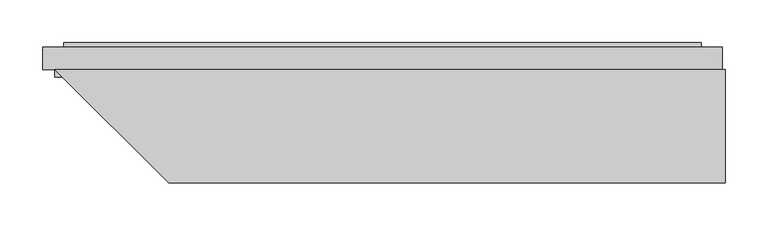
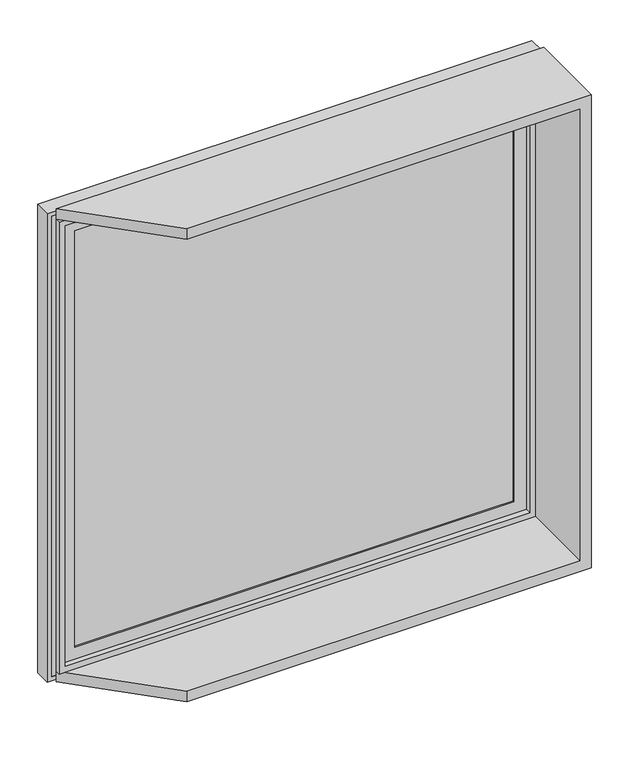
"""IFC4 building model written with IfcOpenShell, lengths in millimetres: plate geometry, SCISSOR PANEL : SCISSOR PANEL."""

from ifc_helpers import new_model, si_unit, frame, origin, place, context, project, spatial, polyline, outline, extrude, faceted_brep, source, transform, mapped, element, save


def plate_d79f475a(model_context):
    return source(origin(), model_context, "Body", "SolidModel", [
        faceted_brep([(398.9048282, 132.5, 800.0), (398.9048282, 132.5, 0.0), (-381.4048282, 132.5, 0.0), (-381.4048282, 132.5, 17.5), (381.4048282, 132.5, 17.5), (381.4048282, 132.5, 782.5), (-381.4048282, 132.5, 782.5), (-381.4048282, 132.5, 800.0), (381.4048282, 0.0, 17.5), (381.4048282, 0.0, 782.5), (-248.9048282, 0.0, 0.0), (-248.9048282, 0.0, 17.5), (-248.9048282, 0.0, 782.5), (-248.9048282, 0.0, 800.0), (398.9048282, 0.0, 0.0), (398.9048282, 0.0, 800.0)], [[[0, 1, 2, 3, 4, 5, 6, 7]], [[8, 9, 5, 4]], [[10, 11, 3, 2]], [[12, 13, 7, 6]], [[14, 15, 13, 12, 9, 8, 11, 10]], [[1, 14, 10, 2]], [[15, 14, 1, 0]], [[15, 0, 7, 13]], [[6, 5, 9, 12]], [[4, 3, 11, 8]]]),
        extrude(outline(polyline([(-368.4048282, 160.5), (368.4048282, 160.5), (368.4048282, 135.5), (-368.4048282, 135.5), (-368.4048282, 160.5)])), frame((0.0, 0.0, 30.5), z_axis=(0.0, 0.0, 1.0), x_axis=(1.0, 0.0, 0.0)), (0.0, 0.0, 1.0), 739.0),
        faceted_brep([(-351.4048282, 135.5, 752.5), (-351.4048282, 132.5, 752.5), (-351.4048282, 132.5, 47.5), (-351.4048282, 135.5, 47.5), (-368.4048282, 160.5, 769.5), (-368.4048282, 135.5, 769.5), (-368.4048282, 135.5, 30.5), (-368.4048282, 160.5, 30.5), (-351.4048282, 163.5, 752.5), (-351.4048282, 160.5, 752.5), (-351.4048282, 160.5, 47.5), (-351.4048282, 163.5, 47.5), (-371.4048282, 132.5, 772.5), (-371.4048282, 163.5, 772.5), (-371.4048282, 163.5, 27.5), (-371.4048282, 132.5, 27.5), (351.4048282, 132.5, 47.5), (351.4048282, 135.5, 47.5), (368.4048282, 135.5, 30.5), (368.4048282, 160.5, 30.5), (351.4048282, 160.5, 47.5), (351.4048282, 163.5, 47.5), (371.4048282, 163.5, 27.5), (371.4048282, 132.5, 27.5), (351.4048282, 132.5, 752.5), (351.4048282, 135.5, 752.5), (368.4048282, 135.5, 769.5), (368.4048282, 160.5, 769.5), (351.4048282, 160.5, 752.5), (351.4048282, 163.5, 752.5), (371.4048282, 163.5, 772.5), (371.4048282, 132.5, 772.5)], [[[0, 1, 2, 3]], [[4, 5, 6, 7]], [[8, 9, 10, 11]], [[12, 13, 14, 15]], [[3, 2, 16, 17]], [[7, 6, 18, 19]], [[11, 10, 20, 21]], [[15, 14, 22, 23]], [[17, 16, 24, 25]], [[19, 18, 26, 27]], [[21, 20, 28, 29]], [[23, 22, 30, 31]], [[15, 23, 31, 12], [1, 24, 16, 2]], [[25, 24, 1, 0]], [[5, 26, 18, 6], [3, 17, 25, 0]], [[27, 26, 5, 4]], [[7, 19, 27, 4], [9, 28, 20, 10]], [[29, 28, 9, 8]], [[13, 30, 22, 14], [11, 21, 29, 8]], [[31, 30, 13, 12]]]),
        faceted_brep([(-395.4048282, 132.5, 796.5), (-395.4048282, 158.75, 796.5), (-395.4048282, 158.75, 3.5), (-395.4048282, 132.5, 3.5), (-388.4048282, 150.0, 789.5), (-388.4048282, 132.5, 789.5), (-388.4048282, 132.5, 10.5), (-388.4048282, 150.0, 10.5), (-381.4048282, 123.75, 782.5), (-381.4048282, 150.0, 782.5), (-381.4048282, 150.0, 17.5), (-381.4048282, 123.75, 17.5), (-371.4048282, 158.75, 772.5), (-371.4048282, 123.75, 772.5), (-371.4048282, 123.75, 27.5), (-371.4048282, 158.75, 27.5), (395.4048282, 158.75, 3.5), (395.4048282, 132.5, 3.5), (388.4048282, 132.5, 10.5), (388.4048282, 150.0, 10.5), (381.4048282, 150.0, 17.5), (381.4048282, 123.75, 17.5), (371.4048282, 123.75, 27.5), (371.4048282, 158.75, 27.5), (395.4048282, 158.75, 796.5), (395.4048282, 132.5, 796.5), (388.4048282, 132.5, 789.5), (388.4048282, 150.0, 789.5), (381.4048282, 150.0, 782.5), (381.4048282, 123.75, 782.5), (371.4048282, 123.75, 772.5), (371.4048282, 158.75, 772.5)], [[[0, 1, 2, 3]], [[4, 5, 6, 7]], [[8, 9, 10, 11]], [[12, 13, 14, 15]], [[3, 2, 16, 17]], [[7, 6, 18, 19]], [[11, 10, 20, 21]], [[15, 14, 22, 23]], [[17, 16, 24, 25]], [[19, 18, 26, 27]], [[21, 20, 28, 29]], [[23, 22, 30, 31]], [[25, 24, 1, 0]], [[3, 17, 25, 0], [5, 26, 18, 6]], [[27, 26, 5, 4]], [[7, 19, 27, 4], [9, 28, 20, 10]], [[29, 28, 9, 8]], [[11, 21, 29, 8], [13, 30, 22, 14]], [[31, 30, 13, 12]], [[1, 24, 16, 2], [15, 23, 31, 12]]]),
        extrude(outline(polyline([(789.5, -388.4048282), (10.5, -388.4048282), (10.5, 388.4048282), (789.5, 388.4048282), (789.5, -388.4048282)]), holes=[polyline([(782.5, -381.4048282), (782.5, 381.4048282), (17.5, 381.4048282), (17.5, -381.4048282), (782.5, -381.4048282)])]), frame((0.0, 132.5, 0.0), z_axis=(0.0, 1.0, 0.0), x_axis=(0.0, 0.0, 1.0)), (0.0, 0.0, 1.0), 17.5),
    ])


if __name__ == "__main__":
    model = new_model("IFC4")
    model_context = context("Model", 3, world=origin())
    ifc_project = project(units=[si_unit("LENGTHUNIT", "METRE", prefix="MILLI")], contexts=[model_context])
    site = spatial("IfcSite", under=ifc_project)
    building = spatial("IfcBuilding", under=site)
    placement = place(None, origin())
    plate_shape = plate_d79f475a(model_context)
    element("IfcPlate", 1, ObjectType="SCISSOR PANEL : SCISSOR PANEL", at=placement, inside=building, context=model_context, shape_type="MappedRepresentation", body=[
        mapped(plate_shape, transform((0.0, 0.0, 0.0), x_axis=(1.0, 0.0, 0.0), y_axis=(0.0, 1.0, 0.0), z_axis=(0.0, 0.0, 1.0))),
    ])
    save(model, "model.ifc")
